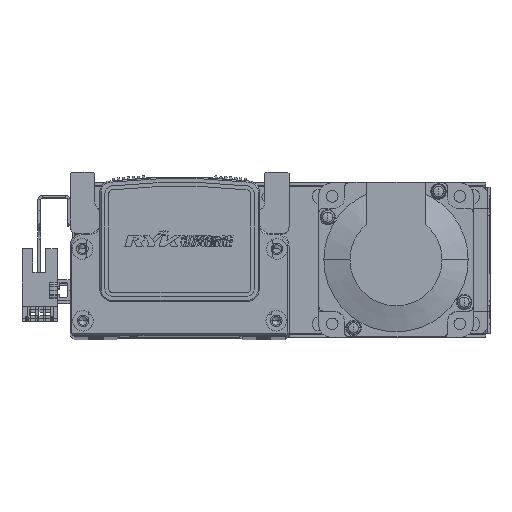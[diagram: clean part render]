
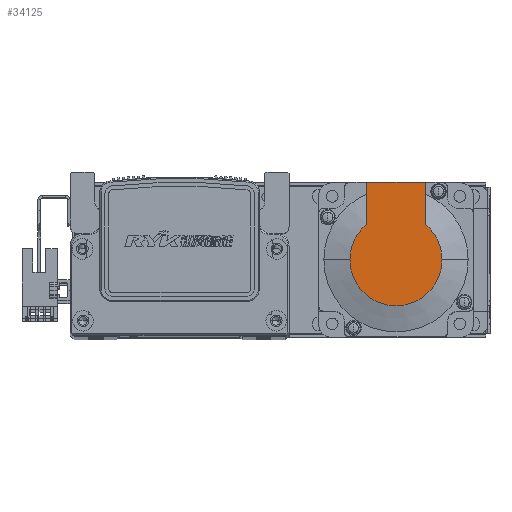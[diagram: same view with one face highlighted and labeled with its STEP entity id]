
A CAD part, top view. The second image highlights one B-rep face of the part: STEP entity #34125.
In plain terms, the highlighted planar face has unit normal (0, 0, 1) as drawn and (-1, 0, 0) by its records, which use the part's own axes.
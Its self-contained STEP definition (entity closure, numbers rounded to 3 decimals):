
#4018 = CIRCLE ( 'NONE', #21298, 17.881 ) ;
#4136 = VECTOR ( 'NONE', #35406, 1000. ) ;
#4147 = LINE ( 'NONE', #35460, #4149 ) ;
#4149 = VECTOR ( 'NONE', #35480, 1000. ) ;
#4224 = LINE ( 'NONE', #35387, #4136 ) ;
#4266 = LINE ( 'NONE', #35489, #4268 ) ;
#4268 = VECTOR ( 'NONE', #35473, 1000. ) ;
#5420 = AXIS2_PLACEMENT_3D ( 'NONE', #37652, #37661, #37667 ) ;
#5461 = AXIS2_PLACEMENT_3D ( 'NONE', #37655, #37656, #37669 ) ;
#14978 = EDGE_LOOP ( 'NONE', ( #63522, #63431, #63527, #63535, #63529, #63544 ) ) ;
#21298 = AXIS2_PLACEMENT_3D ( 'NONE', #35174, #35207, #35180 ) ;
#21875 = AXIS2_PLACEMENT_3D ( 'NONE', #48417, #48461, #48427 ) ;
#25190 = EDGE_CURVE ( 'NONE', #61564, #37966, #41333, .T. ) ;
#25193 = EDGE_CURVE ( 'NONE', #37966, #37968, #41338, .T. ) ;
#25415 = EDGE_CURVE ( 'NONE', #67190, #61564, #4018, .T. ) ;
#25499 = EDGE_CURVE ( 'NONE', #55907, #37968, #4224, .T. ) ;
#25531 = EDGE_CURVE ( 'NONE', #55757, #67190, #4147, .T. ) ;
#25535 = EDGE_CURVE ( 'NONE', #55757, #55907, #4266, .T. ) ;
#26877 = CARTESIAN_POINT ( 'NONE',  ( -99., 13.735, 11.45 ) ) ;
#26905 = CARTESIAN_POINT ( 'NONE',  ( -99., 0., 17.881 ) ) ;
#34125 = ADVANCED_FACE ( 'NONE', ( #50265 ), #48425, .T. ) ;
#35174 = CARTESIAN_POINT ( 'NONE',  ( -99., 0., 0. ) ) ;
#35180 = DIRECTION ( 'NONE',  ( 0., 0., -1. ) ) ;
#35207 = DIRECTION ( 'NONE',  ( -1., 0., 0. ) ) ;
#35387 = CARTESIAN_POINT ( 'NONE',  ( -99., 0., 11.45 ) ) ;
#35406 = DIRECTION ( 'NONE',  ( 0., -1., 0. ) ) ;
#35460 = CARTESIAN_POINT ( 'NONE',  ( -99., -8.941, -11.45 ) ) ;
#35473 = DIRECTION ( 'NONE',  ( 0., 0., 1. ) ) ;
#35480 = DIRECTION ( 'NONE',  ( 0., -1., 0. ) ) ;
#35489 = CARTESIAN_POINT ( 'NONE',  ( -99., 30., 25. ) ) ;
#37652 = CARTESIAN_POINT ( 'NONE',  ( -99., 0., 0. ) ) ;
#37655 = CARTESIAN_POINT ( 'NONE',  ( -99., 0., 0. ) ) ;
#37656 = DIRECTION ( 'NONE',  ( -1., 0., 0. ) ) ;
#37661 = DIRECTION ( 'NONE',  ( -1., 0., 0. ) ) ;
#37667 = DIRECTION ( 'NONE',  ( 0., 0., -1. ) ) ;
#37669 = DIRECTION ( 'NONE',  ( 0., 0., -1. ) ) ;
#37966 = VERTEX_POINT ( 'NONE', #26905 ) ;
#37968 = VERTEX_POINT ( 'NONE', #26877 ) ;
#41333 = CIRCLE ( 'NONE', #5420, 17.881 ) ;
#41338 = CIRCLE ( 'NONE', #5461, 17.881 ) ;
#48417 = CARTESIAN_POINT ( 'NONE',  ( -99., -8.941, 0. ) ) ;
#48425 = PLANE ( 'NONE',  #21875 ) ;
#48427 = DIRECTION ( 'NONE',  ( 0., 0., 1. ) ) ;
#48461 = DIRECTION ( 'NONE',  ( -1., 0., 0. ) ) ;
#50265 = FACE_OUTER_BOUND ( 'NONE', #14978, .T. ) ;
#55757 = VERTEX_POINT ( 'NONE', #59883 ) ;
#55907 = VERTEX_POINT ( 'NONE', #60071 ) ;
#56920 = CARTESIAN_POINT ( 'NONE',  ( -99., 13.735, -11.45 ) ) ;
#59883 = CARTESIAN_POINT ( 'NONE',  ( -99., 30., -11.45 ) ) ;
#60071 = CARTESIAN_POINT ( 'NONE',  ( -99., 30., 11.45 ) ) ;
#60151 = CARTESIAN_POINT ( 'NONE',  ( -99., 0., -17.881 ) ) ;
#61564 = VERTEX_POINT ( 'NONE', #60151 ) ;
#63431 = ORIENTED_EDGE ( 'NONE', *, *, #25415, .T. ) ;
#63522 = ORIENTED_EDGE ( 'NONE', *, *, #25531, .T. ) ;
#63527 = ORIENTED_EDGE ( 'NONE', *, *, #25190, .T. ) ;
#63529 = ORIENTED_EDGE ( 'NONE', *, *, #25499, .F. ) ;
#63535 = ORIENTED_EDGE ( 'NONE', *, *, #25193, .T. ) ;
#63544 = ORIENTED_EDGE ( 'NONE', *, *, #25535, .F. ) ;
#67190 = VERTEX_POINT ( 'NONE', #56920 ) ;
